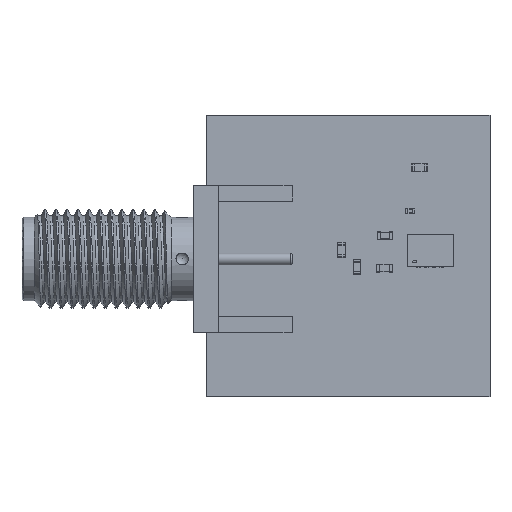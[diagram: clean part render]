
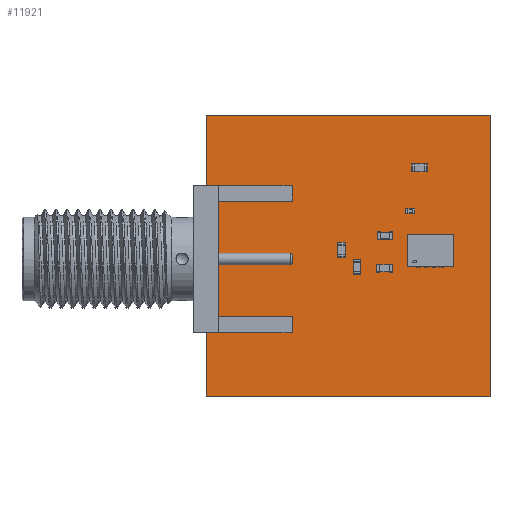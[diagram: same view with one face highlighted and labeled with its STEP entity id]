
A CAD part, top view. The second image highlights one B-rep face of the part: STEP entity #11921.
In plain terms, the highlighted planar face has unit normal (0, 0, 1).
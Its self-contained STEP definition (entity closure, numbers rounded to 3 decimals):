
#11792 = VERTEX_POINT('',#11793);
#11793 = CARTESIAN_POINT('',(152.7,-93.9,1.51));
#11799 = EDGE_CURVE('',#11792,#11800,#11802,.T.);
#11800 = VERTEX_POINT('',#11801);
#11801 = CARTESIAN_POINT('',(134.4,-93.9,1.51));
#11802 = LINE('',#11803,#11804);
#11803 = CARTESIAN_POINT('',(152.7,-93.9,1.51));
#11804 = VECTOR('',#11805,1.);
#11805 = DIRECTION('',(-1.,0.,0.));
#11830 = EDGE_CURVE('',#11800,#11831,#11833,.T.);
#11831 = VERTEX_POINT('',#11832);
#11832 = CARTESIAN_POINT('',(134.4,-75.7,1.51));
#11833 = LINE('',#11834,#11835);
#11834 = CARTESIAN_POINT('',(134.4,-93.9,1.51));
#11835 = VECTOR('',#11836,1.);
#11836 = DIRECTION('',(0.,1.,0.));
#11861 = EDGE_CURVE('',#11831,#11862,#11864,.T.);
#11862 = VERTEX_POINT('',#11863);
#11863 = CARTESIAN_POINT('',(152.7,-75.7,1.51));
#11864 = LINE('',#11865,#11866);
#11865 = CARTESIAN_POINT('',(134.4,-75.7,1.51));
#11866 = VECTOR('',#11867,1.);
#11867 = DIRECTION('',(1.,0.,0.));
#11892 = EDGE_CURVE('',#11862,#11792,#11893,.T.);
#11893 = LINE('',#11894,#11895);
#11894 = CARTESIAN_POINT('',(152.7,-75.7,1.51));
#11895 = VECTOR('',#11896,1.);
#11896 = DIRECTION('',(0.,-1.,0.));
#11921 = ADVANCED_FACE('',(#11922),#11928,.T.);
#11922 = FACE_BOUND('',#11923,.F.);
#11923 = EDGE_LOOP('',(#11924,#11925,#11926,#11927));
#11924 = ORIENTED_EDGE('',*,*,#11799,.T.);
#11925 = ORIENTED_EDGE('',*,*,#11830,.T.);
#11926 = ORIENTED_EDGE('',*,*,#11861,.T.);
#11927 = ORIENTED_EDGE('',*,*,#11892,.T.);
#11928 = PLANE('',#11929);
#11929 = AXIS2_PLACEMENT_3D('',#11930,#11931,#11932);
#11930 = CARTESIAN_POINT('',(0.,0.,1.51));
#11931 = DIRECTION('',(0.,0.,1.));
#11932 = DIRECTION('',(1.,0.,-0.));
